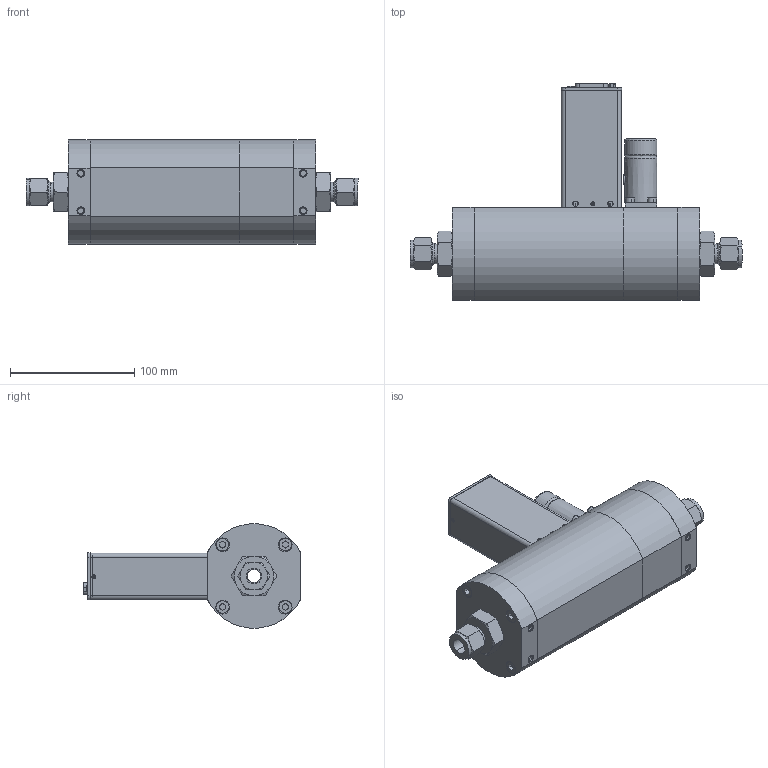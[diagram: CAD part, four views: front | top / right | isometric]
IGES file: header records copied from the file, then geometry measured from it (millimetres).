
Start section: SolidWorks IGES file using analytic representation for surfaces
Global section: file name: G:\Engineering\CAD MODELS FOR SALES\CAD MODEL STORAGE\SLA\SLA5853\IGES\SLA5853-S-2D-2-C-REVB.IGS; native system: SolidWorks 2020; preprocessor: SolidWorks 2020; author: CFehr; date: 230215.085546; units: inch
Bounding box: 266.87 x 174.37 x 83.7 mm (x, y, z)
Volume: 264978.5 mm3; surface area: 193540.6 mm2
Topology: 29 solids, 29 shells, 1367 faces, 3553 edges, 2269 vertices
Faces by surface type: revolution 680, plane 606, bspline 81
